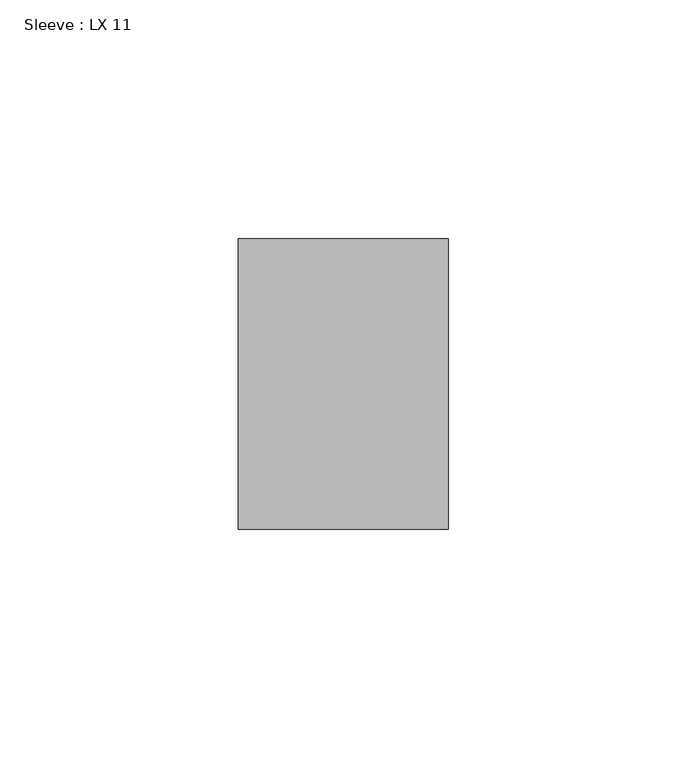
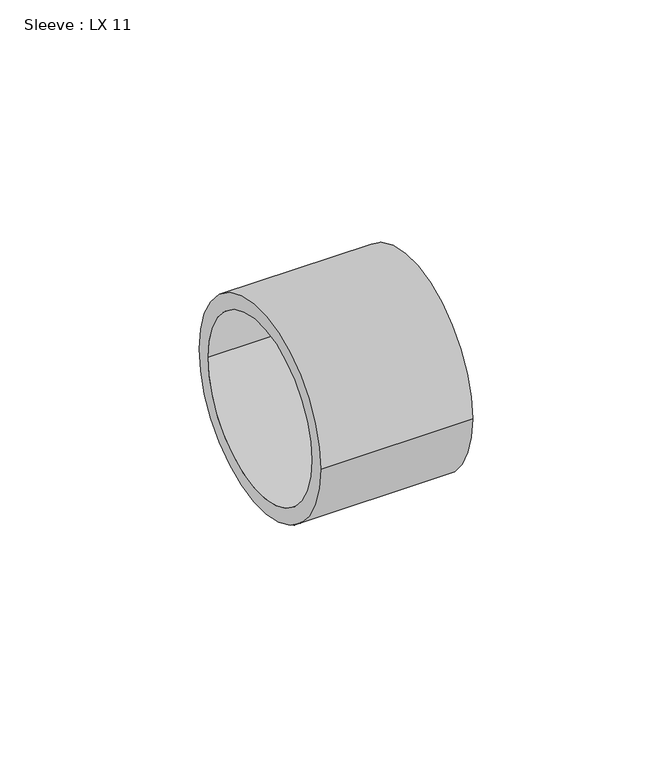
"""IFC4 building model written with IfcOpenShell, lengths in millimetres: pipe fitting geometry, Sleeve : LX 11."""

from ifc_helpers import new_model, si_unit, point, frame, origin, origin_2d, place, context, project, spatial, circle_curve, trimmed, segment, composite_curve, outline, extrude, source, transform, mapped, element, save


def sleeve_lx_11_e5eab1a7(model_context):
    return source(origin(), model_context, "Body", "SweptSolid", [
        extrude(outline(composite_curve([segment(trimmed(circle_curve(origin_2d(), 30.5), [point((-30.5, 0.0))], [point((30.5, 0.0))], False, "CARTESIAN"), True, "CONTINUOUS"), segment(trimmed(circle_curve(origin_2d(), 30.5), [point((30.5, 0.0))], [point((-30.5, 0.0))], False, "CARTESIAN"), True, "CONTINUOUS")], self_intersect=False), holes=[composite_curve([segment(trimmed(circle_curve(origin_2d(), 26.05), [point((-26.05, 0.0))], [point((26.05, 0.0))], True, "CARTESIAN"), True, "CONTINUOUS"), segment(trimmed(circle_curve(origin_2d(), 26.05), [point((26.05, 0.0))], [point((-26.05, 0.0))], True, "CARTESIAN"), True, "CONTINUOUS")], self_intersect=False)]), frame((0.0, 0.0, 0.0), z_axis=(1.0, 0.0, 0.0), x_axis=(0.0, 1.0, 0.0)), (0.0, 0.0, 1.0), 44.0),
    ])


if __name__ == "__main__":
    model = new_model("IFC4")
    model_context = context("Model", 3, world=origin())
    ifc_project = project(units=[si_unit("LENGTHUNIT", "METRE", prefix="MILLI")], contexts=[model_context])
    site = spatial("IfcSite", under=ifc_project)
    building = spatial("IfcBuilding", under=site)
    placement = place(None, origin())
    sleeve_lx_11_shape = sleeve_lx_11_e5eab1a7(model_context)
    element("IfcPipeFitting", 1, ObjectType="Sleeve : LX 11", at=placement, inside=building, context=model_context, shape_type="MappedRepresentation", body=[
        mapped(sleeve_lx_11_shape, transform((0.0, 0.0, 0.0), x_axis=(1.0, 0.0, 0.0), y_axis=(0.0, 1.0, 0.0), z_axis=(0.0, 0.0, 1.0))),
    ])
    save(model, "model.ifc")
